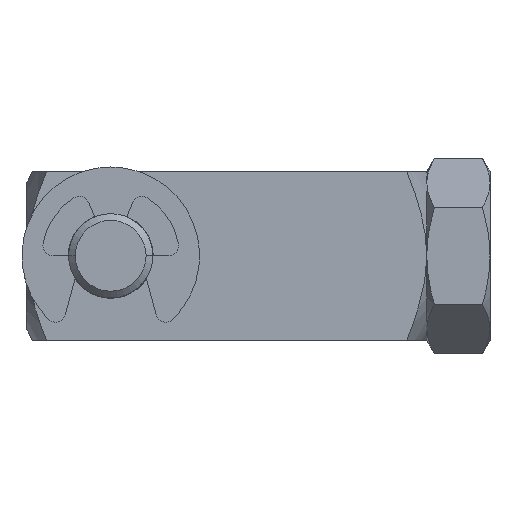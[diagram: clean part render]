
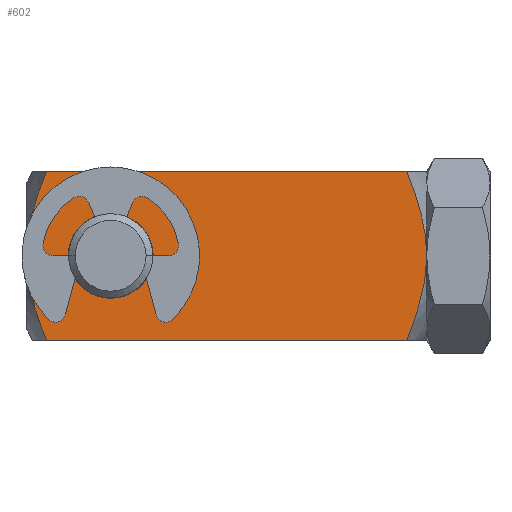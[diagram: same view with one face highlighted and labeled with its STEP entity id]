
A CAD part, top view. The second image highlights one B-rep face of the part: STEP entity #602.
In plain terms, the highlighted planar face has unit normal (0, 0, 1).
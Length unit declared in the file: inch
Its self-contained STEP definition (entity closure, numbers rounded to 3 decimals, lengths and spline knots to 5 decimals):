
#12=CARTESIAN_POINT('',(-1.12771,-0.25,0.25));
#19=DIRECTION('',(1.,0.,0.));
#20=VECTOR('',#19,1.06793);
#21=CARTESIAN_POINT('',(-1.12771,-0.25,0.25));
#22=LINE('',#21,#20);
#23=CARTESIAN_POINT('',(-0.05979,-0.25,0.25));
#68=CARTESIAN_POINT('',(-1.12771,0.25,0.25));
#69=CARTESIAN_POINT('',(-1.13395,0.23471,0.25));
#70=CARTESIAN_POINT('',(-1.14527,0.20556,0.25));
#71=CARTESIAN_POINT('',(-1.15868,0.16664,0.25));
#72=CARTESIAN_POINT('',(-1.16919,0.13106,0.25));
#73=CARTESIAN_POINT('',(-1.17726,0.09746,0.25));
#74=CARTESIAN_POINT('',(-1.1831,0.06478,0.25));
#75=CARTESIAN_POINT('',(-1.18669,0.03239,0.25));
#76=CARTESIAN_POINT('',(-1.1875,0.01079,0.25));
#77=CARTESIAN_POINT('',(-1.1875,0.,0.25));
#79=CARTESIAN_POINT('',(-0.05979,0.25,0.25));
#80=CARTESIAN_POINT('',(-0.05355,0.23471,0.25));
#81=CARTESIAN_POINT('',(-0.04223,0.20556,0.25));
#82=CARTESIAN_POINT('',(-0.02882,0.16664,0.25));
#83=CARTESIAN_POINT('',(-0.01831,0.13106,0.25));
#84=CARTESIAN_POINT('',(-0.01024,0.09746,0.25));
#85=CARTESIAN_POINT('',(-0.0044,0.06478,0.25));
#86=CARTESIAN_POINT('',(-0.00081,0.03239,0.25));
#87=CARTESIAN_POINT('',(0.,0.01079,0.25));
#88=CARTESIAN_POINT('',(0.,0.,0.25));
#90=CARTESIAN_POINT('',(0.,0.,0.25));
#91=CARTESIAN_POINT('',(0.,-0.01078,0.25));
#92=CARTESIAN_POINT('',(-0.00081,-0.03237,0.25));
#93=CARTESIAN_POINT('',(-0.00439,-0.06475,0.25));
#94=CARTESIAN_POINT('',(-0.01022,-0.09738,0.25));
#95=CARTESIAN_POINT('',(-0.01827,-0.13088,0.25));
#96=CARTESIAN_POINT('',(-0.0287,-0.16627,0.25));
#97=CARTESIAN_POINT('',(-0.04214,-0.20533,0.25));
#98=CARTESIAN_POINT('',(-0.05351,-0.23462,0.25));
#99=CARTESIAN_POINT('',(-0.05979,-0.25,0.25));
#101=CARTESIAN_POINT('',(-1.1875,0.,0.25));
#102=CARTESIAN_POINT('',(-1.1875,-0.01078,0.25));
#103=CARTESIAN_POINT('',(-1.18669,-0.03237,0.25));
#104=CARTESIAN_POINT('',(-1.18311,-0.06475,0.25));
#105=CARTESIAN_POINT('',(-1.17728,-0.09738,0.25));
#106=CARTESIAN_POINT('',(-1.16923,-0.13088,0.25));
#107=CARTESIAN_POINT('',(-1.1588,-0.16627,0.25));
#108=CARTESIAN_POINT('',(-1.14536,-0.20533,0.25));
#109=CARTESIAN_POINT('',(-1.13399,-0.23462,0.25));
#110=CARTESIAN_POINT('',(-1.12771,-0.25,0.25));
#112=CARTESIAN_POINT('',(-0.9375,0.,0.25));
#113=DIRECTION('',(0.,0.,-1.));
#114=DIRECTION('',(-1.,0.,0.));
#115=AXIS2_PLACEMENT_3D('',#112,#113,#114);
#117=CARTESIAN_POINT('',(-0.9375,0.,0.25));
#118=DIRECTION('',(0.,0.,-1.));
#119=DIRECTION('',(1.,0.,0.));
#120=AXIS2_PLACEMENT_3D('',#117,#118,#119);
#153=CARTESIAN_POINT('',(-0.05979,0.25,0.25));
#155=DIRECTION('',(1.,0.,0.));
#156=VECTOR('',#155,1.06793);
#157=CARTESIAN_POINT('',(-1.12771,0.25,0.25));
#158=LINE('',#157,#156);
#164=CARTESIAN_POINT('',(-1.12771,0.25,0.25));
#432=VERTEX_POINT('',#12);
#436=VERTEX_POINT('',#23);
#442=VERTEX_POINT('',#164);
#445=VERTEX_POINT('',#153);
#453=CARTESIAN_POINT('',(-1.1875,0.,0.25));
#454=VERTEX_POINT('',#453);
#455=VERTEX_POINT('',#88);
#468=CARTESIAN_POINT('',(-1.0635,0.,0.25));
#469=CARTESIAN_POINT('',(-0.8115,0.,0.25));
#470=VERTEX_POINT('',#468);
#471=VERTEX_POINT('',#469);
#580=CARTESIAN_POINT('',(-1.1875,-0.25,0.25));
#581=DIRECTION('',(0.,0.,1.));
#582=DIRECTION('',(1.,0.,0.));
#583=AXIS2_PLACEMENT_3D('',#580,#581,#582);
#584=PLANE('',#583);
#585=ORIENTED_EDGE('',*,*,#531,.F.);
#587=ORIENTED_EDGE('',*,*,#586,.T.);
#589=ORIENTED_EDGE('',*,*,#588,.T.);
#591=ORIENTED_EDGE('',*,*,#590,.T.);
#592=ORIENTED_EDGE('',*,*,#562,.F.);
#593=ORIENTED_EDGE('',*,*,#503,.F.);
#594=EDGE_LOOP('',(#585,#587,#589,#591,#592,#593));
#595=FACE_OUTER_BOUND('',#594,.F.);
#597=ORIENTED_EDGE('',*,*,#596,.F.);
#599=ORIENTED_EDGE('',*,*,#598,.F.);
#600=EDGE_LOOP('',(#597,#599));
#601=FACE_BOUND('',#600,.F.);
#602=ADVANCED_FACE('',(#595,#601),#584,.T.);
#78=B_SPLINE_CURVE_WITH_KNOTS('',3,(#68,#69,#70,#71,#72,#73,#74,#75,#76,#77),
.UNSPECIFIED.,.F.,.F.,(4,1,1,1,1,1,1,4),(0.,0.14286,
0.28571,0.42857,0.57143,0.71429,
0.85714,1.),.UNSPECIFIED.);
#89=B_SPLINE_CURVE_WITH_KNOTS('',3,(#79,#80,#81,#82,#83,#84,#85,#86,#87,#88),
.UNSPECIFIED.,.F.,.F.,(4,1,1,1,1,1,1,4),(0.,0.14286,
0.28571,0.42857,0.57143,0.71429,
0.85714,1.),.UNSPECIFIED.);
#100=B_SPLINE_CURVE_WITH_KNOTS('',3,(#90,#91,#92,#93,#94,#95,#96,#97,#98,#99),
.UNSPECIFIED.,.F.,.F.,(4,1,1,1,1,1,1,4),(0.,0.14286,
0.28571,0.42857,0.57143,0.71429,
0.85714,1.),.UNSPECIFIED.);
#111=B_SPLINE_CURVE_WITH_KNOTS('',3,(#101,#102,#103,#104,#105,#106,#107,#108,
#109,#110),.UNSPECIFIED.,.F.,.F.,(4,1,1,1,1,1,1,4),(0.,0.14286,
0.28571,0.42857,0.57143,0.71429,
0.85714,1.),.UNSPECIFIED.);
#116=CIRCLE('',#115,0.126);
#121=CIRCLE('',#120,0.126);
#503=EDGE_CURVE('',#454,#432,#111,.T.);
#531=EDGE_CURVE('',#442,#454,#78,.T.);
#562=EDGE_CURVE('',#432,#436,#22,.T.);
#586=EDGE_CURVE('',#442,#445,#158,.T.);
#588=EDGE_CURVE('',#445,#455,#89,.T.);
#590=EDGE_CURVE('',#455,#436,#100,.T.);
#596=EDGE_CURVE('',#470,#471,#116,.T.);
#598=EDGE_CURVE('',#471,#470,#121,.T.);
